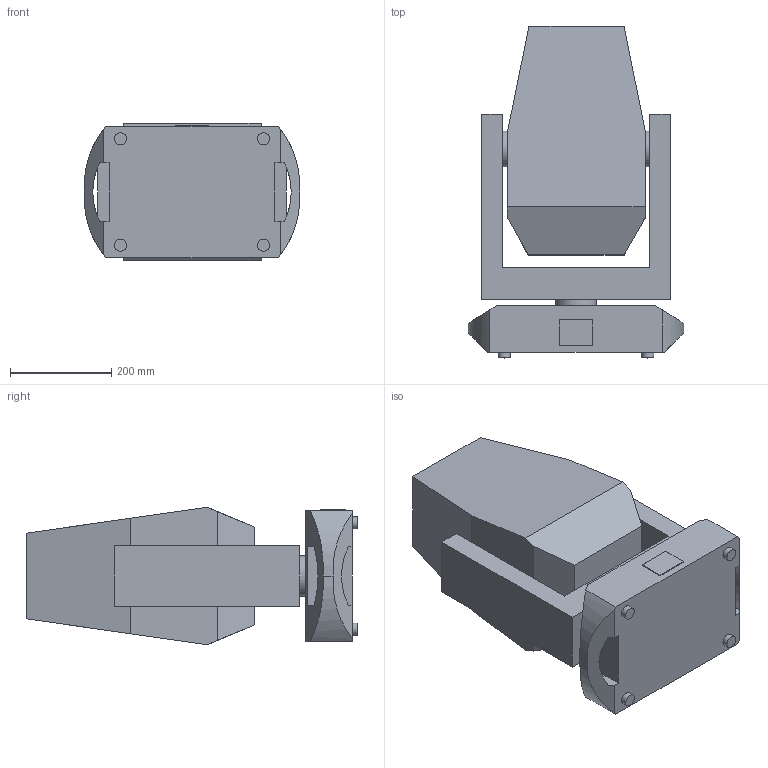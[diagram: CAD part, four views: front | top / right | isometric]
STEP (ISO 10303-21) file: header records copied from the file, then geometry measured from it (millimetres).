
FILE_DESCRIPTION(/* description */ (''),/* implementation_level */ '2;1');
FILE_NAME(/* name */ 'MAVERICKFORCE2SOLOWASH_0.step',/* time_stamp */ '2025-05-02T14:39:25-04:00',/* author */ (''),/* organization */ (''),/* preprocessor_version */ 'ST-DEVELOPER v20.1',/* originating_system */ 'Autodesk Translation Framework v14.4.0.0',/* authorisation */ '');
FILE_SCHEMA (('AUTOMOTIVE_DESIGN { 1 0 10303 214 3 1 1 }'));
Length unit declared in the file: millimetre
Products named in the file (4): M-480W-00-00_ASM; base; arm; head
Assembly tree (3 placements, depth 2):
  M-480W-00-00_ASM
    base
    arm
    head
Bounding box: 425.44 x 655.79 x 271.57 mm (x, y, z)
Volume: 39568411.5 mm3; surface area: 1200561.6 mm2
Topology: 3 solids, 3 shells, 69 faces, 162 edges, 108 vertices
Faces by surface type: plane 51, cylinder 18
Full cylindrical faces by diameter (mm): 24.037 x4, 70.711 x3, 80.349 x2, 157 x1
Entity records: 2101 total; most frequent: DIRECTION 354, CARTESIAN_POINT 346, ORIENTED_EDGE 324, EDGE_CURVE 162, LINE 122, VECTOR 122, AXIS2_PLACEMENT_3D 116, VERTEX_POINT 108
